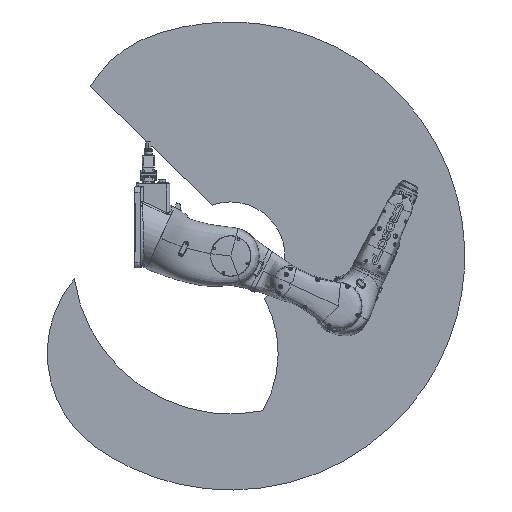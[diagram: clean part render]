
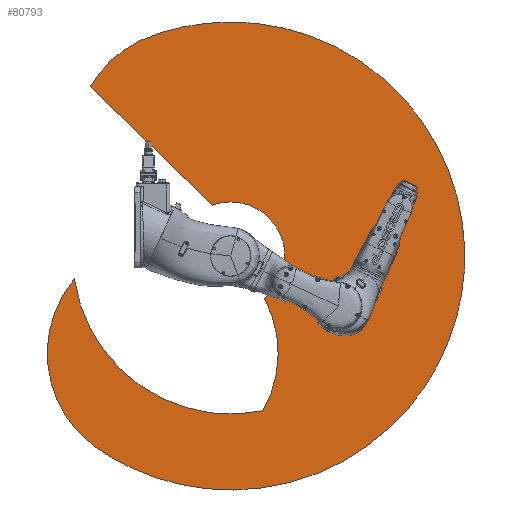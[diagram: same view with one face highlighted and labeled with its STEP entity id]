
A CAD part, left-side view. The second image highlights one B-rep face of the part: STEP entity #80793.
In plain terms, the highlighted planar face has unit normal (-1, 0, 0) as drawn and (1, 0, 0) by its records, which use the part's own axes.
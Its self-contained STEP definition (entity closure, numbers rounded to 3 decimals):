
#1487 = CIRCLE ( 'NONE', #418695, 200.806 ) ;
#5720 = EDGE_CURVE ( 'NONE', #276685, #367274, #392443, .T. ) ;
#26283 = CARTESIAN_POINT ( 'NONE',  ( 0., 75.654, 716.027 ) ) ;
#27725 = DIRECTION ( 'NONE',  ( 1., 0., 0. ) ) ;
#31252 = CARTESIAN_POINT ( 'NONE',  ( 0., 44.166, 704.576 ) ) ;
#40735 = DIRECTION ( 'NONE',  ( 0., 0.718, -0.696 ) ) ;
#43793 = CARTESIAN_POINT ( 'NONE',  ( 0., -164.953, 521.925 ) ) ;
#46646 = CARTESIAN_POINT ( 'NONE',  ( 0., 104.178, -466.203 ) ) ;
#54819 = CARTESIAN_POINT ( 'NONE',  ( 0., 356.552, -105.777 ) ) ;
#62963 = CARTESIAN_POINT ( 'NONE',  ( 0., 1174.51, -397.514 ) ) ;
#63148 = VERTEX_POINT ( 'NONE', #117640 ) ;
#63556 = CARTESIAN_POINT ( 'NONE',  ( 0., 356.552, -105.777 ) ) ;
#63991 = CARTESIAN_POINT ( 'NONE',  ( 0., 14.369, 690.838 ) ) ;
#80793 = ADVANCED_FACE ( 'NONE', ( #110622 ), #258923, .T. ) ;
#99238 = CARTESIAN_POINT ( 'NONE',  ( 0., -383.496, -380.876 ) ) ;
#101736 = CARTESIAN_POINT ( 'NONE',  ( 0., 1217.144, -222.174 ) ) ;
#104198 = CARTESIAN_POINT ( 'NONE',  ( 0., -103.866, -842.107 ) ) ;
#106701 = CARTESIAN_POINT ( 'NONE',  ( 0., -128.754, -826.149 ) ) ;
#109153 = CARTESIAN_POINT ( 'NONE',  ( 0., 1310.965, 471.496 ) ) ;
#110622 = FACE_OUTER_BOUND ( 'NONE', #141758, .T. ) ;
#117640 = CARTESIAN_POINT ( 'NONE',  ( 0., -224.016, -190.815 ) ) ;
#136967 = CARTESIAN_POINT ( 'NONE',  ( 0., 29.121, 697.985 ) ) ;
#141758 = EDGE_LOOP ( 'NONE', ( #185076, #380540, #412186, #363807, #341105 ) ) ;
#179672 = CARTESIAN_POINT ( 'NONE',  ( 0., -122.701, 595.097 ) ) ;
#182156 = CARTESIAN_POINT ( 'NONE',  ( 0., -363.655, -628.188 ) ) ;
#185076 = ORIENTED_EDGE ( 'NONE', *, *, #285292, .T. ) ;
#199975 = DIRECTION ( 'NONE',  ( -1., 0., 0. ) ) ;
#210285 = EDGE_CURVE ( 'NONE', #367274, #216681, #1487, .T. ) ;
#214829 = CARTESIAN_POINT ( 'NONE',  ( 0., 59.741, 710.412 ) ) ;
#216681 = VERTEX_POINT ( 'NONE', #368735 ) ;
#216863 = CARTESIAN_POINT ( 'NONE',  ( 0., 287.851, 82.912 ) ) ;
#218035 = DIRECTION ( 'NONE',  ( -1., 0., 0. ) ) ;
#219790 = CARTESIAN_POINT ( 'NONE',  ( 0., 1123.323, -915.844 ) ) ;
#224737 = CARTESIAN_POINT ( 'NONE',  ( 0., -164.953, 521.925 ) ) ;
#228664 = EDGE_CURVE ( 'NONE', #250695, #63148, #321549, .T. ) ;
#233337 = AXIS2_PLACEMENT_3D ( 'NONE', #63556, #289753, #448062 ) ;
#241341 = CARTESIAN_POINT ( 'NONE',  ( 0., 475.207, -680.417 ) ) ;
#246857 =( BOUNDED_CURVE ( )  B_SPLINE_CURVE ( 3, ( #373055, #99238, #182156, #486238, #448499, #259928, #106701, #446018, #104198, #375577, #219790, #101736, #109153, #254948, #257434, #335298, #453491, #26283, #214829, #31252, #136967, #300097, #63991, #410773, #179672, #224737 ),
 .UNSPECIFIED., .F., .T. ) 
 B_SPLINE_CURVE_WITH_KNOTS ( ( 4, 3, 1, 1, 3, 3, 3, 1, 1, 1, 1, 1, 3, 4 ),
 ( 0., 0.152, 0.16, 0.167, 0.174, 0.543, 0.912, 0.917, 0.921, 0.925, 0.929, 0.934, 0.938, 1. ),
 .UNSPECIFIED. ) 
 CURVE ( )  GEOMETRIC_REPRESENTATION_ITEM ( )  RATIONAL_B_SPLINE_CURVE ( ( 1., 0.808, 0.808, 1., 1., 1., 1., 1., 1., 0.695, 0.695, 1., 0.695, 0.695, 1., 1., 1., 1., 1., 1., 1., 1., 1., 0.972, 0.972, 1. ) ) 
 REPRESENTATION_ITEM ( '' )  );
#250695 = VERTEX_POINT ( 'NONE', #241341 ) ;
#254948 = CARTESIAN_POINT ( 'NONE',  ( 0., 779.051, 926.523 ) ) ;
#257434 = CARTESIAN_POINT ( 'NONE',  ( 0., 108.28, 726.406 ) ) ;
#258923 = PLANE ( 'NONE',  #431508 ) ;
#259928 = CARTESIAN_POINT ( 'NONE',  ( 0., -153.1, -809.205 ) ) ;
#270368 = DIRECTION ( 'NONE',  ( 0., 0., -1. ) ) ;
#276685 = VERTEX_POINT ( 'NONE', #43793 ) ;
#285292 = EDGE_CURVE ( 'NONE', #63148, #276685, #246857, .T. ) ;
#289753 = DIRECTION ( 'NONE',  ( -1., 0., 0. ) ) ;
#300097 = CARTESIAN_POINT ( 'NONE',  ( 0., 19.255, 693.283 ) ) ;
#321549 = CIRCLE ( 'NONE', #233337, 586.763 ) ;
#335298 = CARTESIAN_POINT ( 'NONE',  ( 0., 102.813, 724.775 ) ) ;
#337143 = CIRCLE ( 'NONE', #409650, 428.428 ) ;
#341105 = ORIENTED_EDGE ( 'NONE', *, *, #228664, .T. ) ;
#363807 = ORIENTED_EDGE ( 'NONE', *, *, #382324, .T. ) ;
#367274 = VERTEX_POINT ( 'NONE', #216863 ) ;
#368735 = CARTESIAN_POINT ( 'NONE',  ( 0., 481.385, -263.065 ) ) ;
#373055 = CARTESIAN_POINT ( 'NONE',  ( 0., -224.016, -190.815 ) ) ;
#375577 = CARTESIAN_POINT ( 'NONE',  ( 0., 489.644, -1213.221 ) ) ;
#380540 = ORIENTED_EDGE ( 'NONE', *, *, #5720, .T. ) ;
#382324 = EDGE_CURVE ( 'NONE', #216681, #250695, #337143, .T. ) ;
#383082 = VECTOR ( 'NONE', #40735, 1000. ) ;
#392443 = LINE ( 'NONE', #467925, #383082 ) ;
#409650 = AXIS2_PLACEMENT_3D ( 'NONE', #46646, #199975, #270368 ) ;
#410773 = CARTESIAN_POINT ( 'NONE',  ( 0., -61.196, 653.032 ) ) ;
#412186 = ORIENTED_EDGE ( 'NONE', *, *, #210285, .T. ) ;
#418695 = AXIS2_PLACEMENT_3D ( 'NONE', #54819, #218035, #449225 ) ;
#431508 = AXIS2_PLACEMENT_3D ( 'NONE', #62963, #27725, #454971 ) ;
#446018 = CARTESIAN_POINT ( 'NONE',  ( 0., -112.221, -836.882 ) ) ;
#448062 = DIRECTION ( 'NONE',  ( 0., 0., -1. ) ) ;
#448499 = CARTESIAN_POINT ( 'NONE',  ( 0., -168.458, -796.835 ) ) ;
#449225 = DIRECTION ( 'NONE',  ( 0., 0., -1. ) ) ;
#453491 = CARTESIAN_POINT ( 'NONE',  ( 0., 91.911, 721.405 ) ) ;
#454971 = DIRECTION ( 'NONE',  ( 0., 0., -1. ) ) ;
#467925 = CARTESIAN_POINT ( 'NONE',  ( 0., -164.953, 521.925 ) ) ;
#486238 = CARTESIAN_POINT ( 'NONE',  ( 0., -175.914, -790.392 ) ) ;
